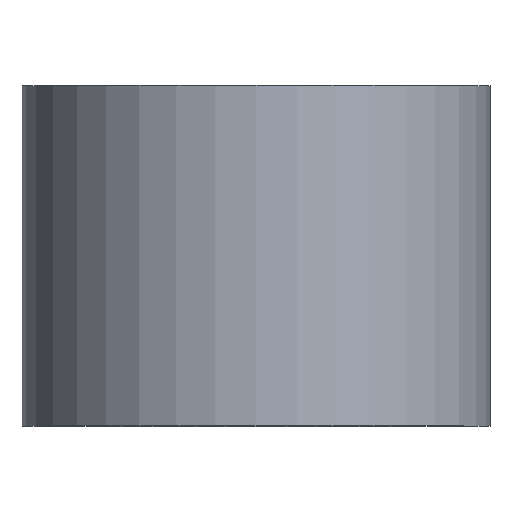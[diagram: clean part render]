
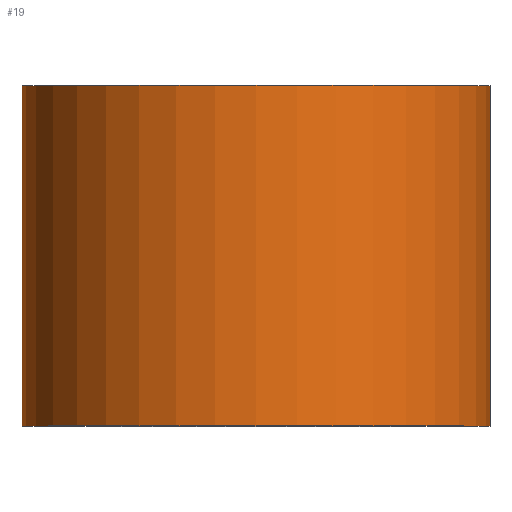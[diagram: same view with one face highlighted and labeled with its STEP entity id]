
A CAD part, top view. The second image highlights one B-rep face of the part: STEP entity #19.
In plain terms, the highlighted cylindrical face has radius 11 mm (diameter 22 mm), a partial arc.
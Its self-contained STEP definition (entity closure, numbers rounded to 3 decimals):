
#2 = VERTEX_POINT ( 'NONE', #250 ) ;
#7 = ORIENTED_EDGE ( 'NONE', *, *, #76, .T. ) ;
#12 = DIRECTION ( 'NONE',  ( 0., 1., 0. ) ) ;
#19 = ADVANCED_FACE ( 'NONE', ( #144 ), #78, .T. ) ;
#22 = EDGE_LOOP ( 'NONE', ( #7, #103, #72, #300 ) ) ;
#26 = VERTEX_POINT ( 'NONE', #223 ) ;
#40 = LINE ( 'NONE', #225, #218 ) ;
#55 = CARTESIAN_POINT ( 'NONE',  ( 0., 0., 0. ) ) ;
#56 = DIRECTION ( 'NONE',  ( -1., 0., 0. ) ) ;
#59 = DIRECTION ( 'NONE',  ( 0., 1., 0. ) ) ;
#72 = ORIENTED_EDGE ( 'NONE', *, *, #94, .F. ) ;
#74 = AXIS2_PLACEMENT_3D ( 'NONE', #273, #80, #127 ) ;
#75 = EDGE_CURVE ( 'NONE', #26, #137, #40, .T. ) ;
#76 = EDGE_CURVE ( 'NONE', #2, #26, #278, .T. ) ;
#78 = CYLINDRICAL_SURFACE ( 'NONE', #187, 11. ) ;
#80 = DIRECTION ( 'NONE',  ( 0., 1., 0. ) ) ;
#94 = EDGE_CURVE ( 'NONE', #161, #137, #209, .T. ) ;
#96 = LINE ( 'NONE', #155, #189 ) ;
#101 = CARTESIAN_POINT ( 'NONE',  ( 11., 16., 0. ) ) ;
#103 = ORIENTED_EDGE ( 'NONE', *, *, #75, .T. ) ;
#104 = DIRECTION ( 'NONE',  ( -1., 0., 0. ) ) ;
#117 = EDGE_CURVE ( 'NONE', #2, #161, #96, .T. ) ;
#127 = DIRECTION ( 'NONE',  ( -1., 0., 0. ) ) ;
#137 = VERTEX_POINT ( 'NONE', #101 ) ;
#144 = FACE_OUTER_BOUND ( 'NONE', #22, .T. ) ;
#155 = CARTESIAN_POINT ( 'NONE',  ( -11., 0., 0. ) ) ;
#161 = VERTEX_POINT ( 'NONE', #229 ) ;
#174 = DIRECTION ( 'NONE',  ( 0., 1., 0. ) ) ;
#187 = AXIS2_PLACEMENT_3D ( 'NONE', #55, #12, #56 ) ;
#189 = VECTOR ( 'NONE', #59, 1000. ) ;
#196 = CARTESIAN_POINT ( 'NONE',  ( 0., 0., 0. ) ) ;
#209 = CIRCLE ( 'NONE', #74, 11. ) ;
#218 = VECTOR ( 'NONE', #249, 1000. ) ;
#221 = AXIS2_PLACEMENT_3D ( 'NONE', #196, #174, #104 ) ;
#223 = CARTESIAN_POINT ( 'NONE',  ( 11., 0., 0. ) ) ;
#225 = CARTESIAN_POINT ( 'NONE',  ( 11., 0., 0. ) ) ;
#229 = CARTESIAN_POINT ( 'NONE',  ( -11., 16., 0. ) ) ;
#249 = DIRECTION ( 'NONE',  ( 0., 1., 0. ) ) ;
#250 = CARTESIAN_POINT ( 'NONE',  ( -11., 0., 0. ) ) ;
#273 = CARTESIAN_POINT ( 'NONE',  ( 0., 16., 0. ) ) ;
#278 = CIRCLE ( 'NONE', #221, 11. ) ;
#300 = ORIENTED_EDGE ( 'NONE', *, *, #117, .F. ) ;
